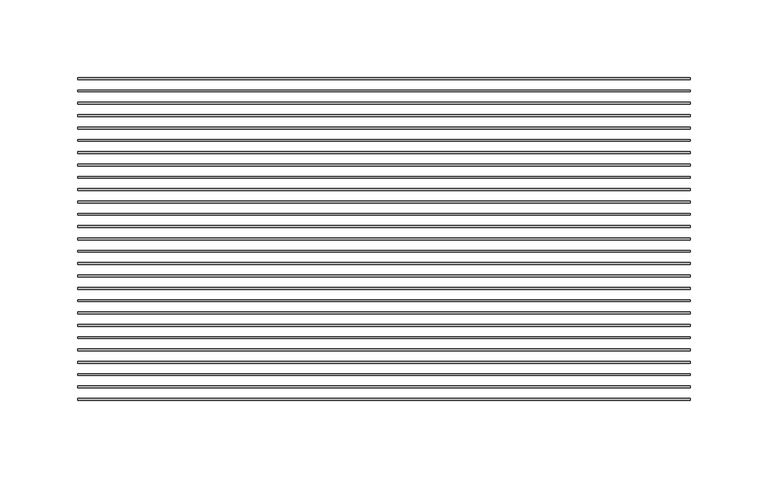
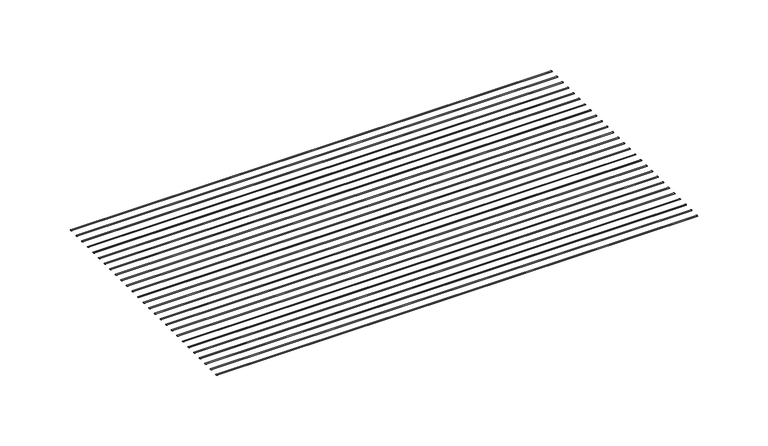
"""IFC4 building model written with IfcOpenShell, lengths in millimetres: proxy geometry, CRAi Generic Model Mesh Piece Face Based : CRAi Generic Model Mesh Piece Face Based."""

from ifc_helpers import new_model, si_unit, point, frame, origin, place, context, project, spatial, ellipse_curve, trimmed, source, transform, mapped, element, save
from ifc_brep_helpers import plane_surface, extruded_surface, advanced_brep


def generic_models_04f31e3c(model_context):
    return source(origin(), model_context, "Body", "AdvancedBrep", [
        advanced_brep(
        [(-196.85, 134.6265202, -2.9765625), (-196.85, 133.4358952, -2.9765625), (196.85, 134.6265202, -2.9765625), (196.85, 133.4358952, -2.9765625)],
        [
            (0, 1, ellipse_curve(frame((-196.85, 134.0312077, -2.9765625), z_axis=(-1.0, 0.0, 0.0), x_axis=(0.0, -1.0, 0.0)), 0.5953125, 0.1984375)),
            (1, 0, ellipse_curve(frame((-196.85, 134.0312077, -2.9765625), z_axis=(-1.0, 0.0, 0.0), x_axis=(0.0, -1.0, 0.0)), 0.5953125, 0.1984375)),
            (2, 3, ellipse_curve(frame((196.85, 134.0312077, -2.9765625), z_axis=(1.0, 0.0, 0.0), x_axis=(0.0, -1.0, 0.0)), 0.5953125, 0.1984375)),
            (3, 2, ellipse_curve(frame((196.85, 134.0312077, -2.9765625), z_axis=(1.0, 0.0, 0.0), x_axis=(0.0, -1.0, 0.0)), 0.5953125, 0.1984375)),
            (0, 2),
            (3, 1),
        ],
        [
            plane_surface(frame((-196.85, 134.0312077, -2.9765625), z_axis=(-1.0, 0.0, 0.0), x_axis=(0.0, 0.0, 1.0))),
            plane_surface(frame((196.85, 134.0312077, -2.9765625), z_axis=(1.0, 0.0, 0.0), x_axis=(0.0, 0.0, 1.0))),
            extruded_surface(trimmed(ellipse_curve(frame((196.85, 134.0312077, -2.9765625), z_axis=(-1.0, 0.0, 0.0), x_axis=(0.0, -1.0, 0.0)), 0.5953125, 0.1984375), [point((196.85, 134.6265202, -2.9765625))], [point((196.85, 133.4358952, -2.9765625))], True, "CARTESIAN"), (-393.7, 0.0, 0.0), 393.7),
            extruded_surface(trimmed(ellipse_curve(frame((196.85, 134.0312077, -2.9765625), z_axis=(-1.0, 0.0, 0.0), x_axis=(0.0, -1.0, 0.0)), 0.5953125, 0.1984375), [point((196.85, 133.4358952, -2.9765625))], [point((196.85, 134.6265202, -2.9765625))], True, "CARTESIAN"), (-393.7, 0.0, 0.0), 393.7),
        ],
        [
            (0, [[1, 2]]),
            (1, [[3, 4]]),
            (2, [[-1, 5, -4, 6]]),
            (3, [[-2, -6, -3, -5]]),
        ],
    ),
        advanced_brep(
        [(-196.85, 126.6890202, -2.9765625), (-196.85, 125.4983952, -2.9765625), (196.85, 126.6890202, -2.9765625), (196.85, 125.4983952, -2.9765625)],
        [
            (0, 1, ellipse_curve(frame((-196.85, 126.0937077, -2.9765625), z_axis=(-1.0, 0.0, 0.0), x_axis=(0.0, -1.0, 0.0)), 0.5953125, 0.1984375)),
            (1, 0, ellipse_curve(frame((-196.85, 126.0937077, -2.9765625), z_axis=(-1.0, 0.0, 0.0), x_axis=(0.0, -1.0, 0.0)), 0.5953125, 0.1984375)),
            (2, 3, ellipse_curve(frame((196.85, 126.0937077, -2.9765625), z_axis=(1.0, 0.0, 0.0), x_axis=(0.0, -1.0, 0.0)), 0.5953125, 0.1984375)),
            (3, 2, ellipse_curve(frame((196.85, 126.0937077, -2.9765625), z_axis=(1.0, 0.0, 0.0), x_axis=(0.0, -1.0, 0.0)), 0.5953125, 0.1984375)),
            (0, 2),
            (3, 1),
        ],
        [
            plane_surface(frame((-196.85, 126.0937077, -2.9765625), z_axis=(-1.0, 0.0, 0.0), x_axis=(0.0, 0.0, 1.0))),
            plane_surface(frame((196.85, 126.0937077, -2.9765625), z_axis=(1.0, 0.0, 0.0), x_axis=(0.0, 0.0, 1.0))),
            extruded_surface(trimmed(ellipse_curve(frame((196.85, 126.0937077, -2.9765625), z_axis=(-1.0, 0.0, 0.0), x_axis=(0.0, -1.0, 0.0)), 0.5953125, 0.1984375), [point((196.85, 126.6890202, -2.9765625))], [point((196.85, 125.4983952, -2.9765625))], True, "CARTESIAN"), (-393.7, 0.0, 0.0), 393.7),
            extruded_surface(trimmed(ellipse_curve(frame((196.85, 126.0937077, -2.9765625), z_axis=(-1.0, 0.0, 0.0), x_axis=(0.0, -1.0, 0.0)), 0.5953125, 0.1984375), [point((196.85, 125.4983952, -2.9765625))], [point((196.85, 126.6890202, -2.9765625))], True, "CARTESIAN"), (-393.7, 0.0, 0.0), 393.7),
        ],
        [
            (0, [[1, 2]]),
            (1, [[3, 4]]),
            (2, [[-1, 5, -4, 6]]),
            (3, [[-2, -6, -3, -5]]),
        ],
    ),
        advanced_brep(
        [(-196.85, 118.7515202, -2.9765625), (-196.85, 117.5608952, -2.9765625), (196.85, 118.7515202, -2.9765625), (196.85, 117.5608952, -2.9765625)],
        [
            (0, 1, ellipse_curve(frame((-196.85, 118.1562077, -2.9765625), z_axis=(-1.0, 0.0, 0.0), x_axis=(0.0, -1.0, 0.0)), 0.5953125, 0.1984375)),
            (1, 0, ellipse_curve(frame((-196.85, 118.1562077, -2.9765625), z_axis=(-1.0, 0.0, 0.0), x_axis=(0.0, -1.0, 0.0)), 0.5953125, 0.1984375)),
            (2, 3, ellipse_curve(frame((196.85, 118.1562077, -2.9765625), z_axis=(1.0, 0.0, 0.0), x_axis=(0.0, -1.0, 0.0)), 0.5953125, 0.1984375)),
            (3, 2, ellipse_curve(frame((196.85, 118.1562077, -2.9765625), z_axis=(1.0, 0.0, 0.0), x_axis=(0.0, -1.0, 0.0)), 0.5953125, 0.1984375)),
            (0, 2),
            (3, 1),
        ],
        [
            plane_surface(frame((-196.85, 118.1562077, -2.9765625), z_axis=(-1.0, 0.0, 0.0), x_axis=(0.0, 0.0, 1.0))),
            plane_surface(frame((196.85, 118.1562077, -2.9765625), z_axis=(1.0, 0.0, 0.0), x_axis=(0.0, 0.0, 1.0))),
            extruded_surface(trimmed(ellipse_curve(frame((196.85, 118.1562077, -2.9765625), z_axis=(-1.0, 0.0, 0.0), x_axis=(0.0, -1.0, 0.0)), 0.5953125, 0.1984375), [point((196.85, 118.7515202, -2.9765625))], [point((196.85, 117.5608952, -2.9765625))], True, "CARTESIAN"), (-393.7, 0.0, 0.0), 393.7),
            extruded_surface(trimmed(ellipse_curve(frame((196.85, 118.1562077, -2.9765625), z_axis=(-1.0, 0.0, 0.0), x_axis=(0.0, -1.0, 0.0)), 0.5953125, 0.1984375), [point((196.85, 117.5608952, -2.9765625))], [point((196.85, 118.7515202, -2.9765625))], True, "CARTESIAN"), (-393.7, 0.0, 0.0), 393.7),
        ],
        [
            (0, [[1, 2]]),
            (1, [[3, 4]]),
            (2, [[-1, 5, -4, 6]]),
            (3, [[-2, -6, -3, -5]]),
        ],
    ),
        advanced_brep(
        [(-196.85, 110.8140202, -2.9765625), (-196.85, 109.6233952, -2.9765625), (196.85, 110.8140202, -2.9765625), (196.85, 109.6233952, -2.9765625)],
        [
            (0, 1, ellipse_curve(frame((-196.85, 110.2187077, -2.9765625), z_axis=(-1.0, 0.0, 0.0), x_axis=(0.0, -1.0, 0.0)), 0.5953125, 0.1984375)),
            (1, 0, ellipse_curve(frame((-196.85, 110.2187077, -2.9765625), z_axis=(-1.0, 0.0, 0.0), x_axis=(0.0, -1.0, 0.0)), 0.5953125, 0.1984375)),
            (2, 3, ellipse_curve(frame((196.85, 110.2187077, -2.9765625), z_axis=(1.0, 0.0, 0.0), x_axis=(0.0, -1.0, 0.0)), 0.5953125, 0.1984375)),
            (3, 2, ellipse_curve(frame((196.85, 110.2187077, -2.9765625), z_axis=(1.0, 0.0, 0.0), x_axis=(0.0, -1.0, 0.0)), 0.5953125, 0.1984375)),
            (0, 2),
            (3, 1),
        ],
        [
            plane_surface(frame((-196.85, 110.2187077, -2.9765625), z_axis=(-1.0, 0.0, 0.0), x_axis=(0.0, 0.0, 1.0))),
            plane_surface(frame((196.85, 110.2187077, -2.9765625), z_axis=(1.0, 0.0, 0.0), x_axis=(0.0, 0.0, 1.0))),
            extruded_surface(trimmed(ellipse_curve(frame((196.85, 110.2187077, -2.9765625), z_axis=(-1.0, 0.0, 0.0), x_axis=(0.0, -1.0, 0.0)), 0.5953125, 0.1984375), [point((196.85, 110.8140202, -2.9765625))], [point((196.85, 109.6233952, -2.9765625))], True, "CARTESIAN"), (-393.7, 0.0, 0.0), 393.7),
            extruded_surface(trimmed(ellipse_curve(frame((196.85, 110.2187077, -2.9765625), z_axis=(-1.0, 0.0, 0.0), x_axis=(0.0, -1.0, 0.0)), 0.5953125, 0.1984375), [point((196.85, 109.6233952, -2.9765625))], [point((196.85, 110.8140202, -2.9765625))], True, "CARTESIAN"), (-393.7, 0.0, 0.0), 393.7),
        ],
        [
            (0, [[1, 2]]),
            (1, [[3, 4]]),
            (2, [[-1, 5, -4, 6]]),
            (3, [[-2, -6, -3, -5]]),
        ],
    ),
        advanced_brep(
        [(-196.85, 102.8765202, -2.9765625), (-196.85, 101.6858952, -2.9765625), (196.85, 102.8765202, -2.9765625), (196.85, 101.6858952, -2.9765625)],
        [
            (0, 1, ellipse_curve(frame((-196.85, 102.2812077, -2.9765625), z_axis=(-1.0, 0.0, 0.0), x_axis=(0.0, -1.0, 0.0)), 0.5953125, 0.1984375)),
            (1, 0, ellipse_curve(frame((-196.85, 102.2812077, -2.9765625), z_axis=(-1.0, 0.0, 0.0), x_axis=(0.0, -1.0, 0.0)), 0.5953125, 0.1984375)),
            (2, 3, ellipse_curve(frame((196.85, 102.2812077, -2.9765625), z_axis=(1.0, 0.0, 0.0), x_axis=(0.0, -1.0, 0.0)), 0.5953125, 0.1984375)),
            (3, 2, ellipse_curve(frame((196.85, 102.2812077, -2.9765625), z_axis=(1.0, 0.0, 0.0), x_axis=(0.0, -1.0, 0.0)), 0.5953125, 0.1984375)),
            (0, 2),
            (3, 1),
        ],
        [
            plane_surface(frame((-196.85, 102.2812077, -2.9765625), z_axis=(-1.0, 0.0, 0.0), x_axis=(0.0, 0.0, 1.0))),
            plane_surface(frame((196.85, 102.2812077, -2.9765625), z_axis=(1.0, 0.0, 0.0), x_axis=(0.0, 0.0, 1.0))),
            extruded_surface(trimmed(ellipse_curve(frame((196.85, 102.2812077, -2.9765625), z_axis=(-1.0, 0.0, 0.0), x_axis=(0.0, -1.0, 0.0)), 0.5953125, 0.1984375), [point((196.85, 102.8765202, -2.9765625))], [point((196.85, 101.6858952, -2.9765625))], True, "CARTESIAN"), (-393.7, 0.0, 0.0), 393.7),
            extruded_surface(trimmed(ellipse_curve(frame((196.85, 102.2812077, -2.9765625), z_axis=(-1.0, 0.0, 0.0), x_axis=(0.0, -1.0, 0.0)), 0.5953125, 0.1984375), [point((196.85, 101.6858952, -2.9765625))], [point((196.85, 102.8765202, -2.9765625))], True, "CARTESIAN"), (-393.7, 0.0, 0.0), 393.7),
        ],
        [
            (0, [[1, 2]]),
            (1, [[3, 4]]),
            (2, [[-1, 5, -4, 6]]),
            (3, [[-2, -6, -3, -5]]),
        ],
    ),
        advanced_brep(
        [(-196.85, 94.9390202, -2.9765625), (-196.85, 93.7483952, -2.9765625), (196.85, 94.9390202, -2.9765625), (196.85, 93.7483952, -2.9765625)],
        [
            (0, 1, ellipse_curve(frame((-196.85, 94.3437077, -2.9765625), z_axis=(-1.0, 0.0, 0.0), x_axis=(0.0, -1.0, 0.0)), 0.5953125, 0.1984375)),
            (1, 0, ellipse_curve(frame((-196.85, 94.3437077, -2.9765625), z_axis=(-1.0, 0.0, 0.0), x_axis=(0.0, -1.0, 0.0)), 0.5953125, 0.1984375)),
            (2, 3, ellipse_curve(frame((196.85, 94.3437077, -2.9765625), z_axis=(1.0, 0.0, 0.0), x_axis=(0.0, -1.0, 0.0)), 0.5953125, 0.1984375)),
            (3, 2, ellipse_curve(frame((196.85, 94.3437077, -2.9765625), z_axis=(1.0, 0.0, 0.0), x_axis=(0.0, -1.0, 0.0)), 0.5953125, 0.1984375)),
            (0, 2),
            (3, 1),
        ],
        [
            plane_surface(frame((-196.85, 94.3437077, -2.9765625), z_axis=(-1.0, 0.0, 0.0), x_axis=(0.0, 0.0, 1.0))),
            plane_surface(frame((196.85, 94.3437077, -2.9765625), z_axis=(1.0, 0.0, 0.0), x_axis=(0.0, 0.0, 1.0))),
            extruded_surface(trimmed(ellipse_curve(frame((196.85, 94.3437077, -2.9765625), z_axis=(-1.0, 0.0, 0.0), x_axis=(0.0, -1.0, 0.0)), 0.5953125, 0.1984375), [point((196.85, 94.9390202, -2.9765625))], [point((196.85, 93.7483952, -2.9765625))], True, "CARTESIAN"), (-393.7, 0.0, 0.0), 393.7),
            extruded_surface(trimmed(ellipse_curve(frame((196.85, 94.3437077, -2.9765625), z_axis=(-1.0, 0.0, 0.0), x_axis=(0.0, -1.0, 0.0)), 0.5953125, 0.1984375), [point((196.85, 93.7483952, -2.9765625))], [point((196.85, 94.9390202, -2.9765625))], True, "CARTESIAN"), (-393.7, 0.0, 0.0), 393.7),
        ],
        [
            (0, [[1, 2]]),
            (1, [[3, 4]]),
            (2, [[-1, 5, -4, 6]]),
            (3, [[-2, -6, -3, -5]]),
        ],
    ),
        advanced_brep(
        [(-196.85, 87.0015202, -2.9765625), (-196.85, 85.8108952, -2.9765625), (196.85, 87.0015202, -2.9765625), (196.85, 85.8108952, -2.9765625)],
        [
            (0, 1, ellipse_curve(frame((-196.85, 86.4062077, -2.9765625), z_axis=(-1.0, 0.0, 0.0), x_axis=(0.0, -1.0, 0.0)), 0.5953125, 0.1984375)),
            (1, 0, ellipse_curve(frame((-196.85, 86.4062077, -2.9765625), z_axis=(-1.0, 0.0, 0.0), x_axis=(0.0, -1.0, 0.0)), 0.5953125, 0.1984375)),
            (2, 3, ellipse_curve(frame((196.85, 86.4062077, -2.9765625), z_axis=(1.0, 0.0, 0.0), x_axis=(0.0, -1.0, 0.0)), 0.5953125, 0.1984375)),
            (3, 2, ellipse_curve(frame((196.85, 86.4062077, -2.9765625), z_axis=(1.0, 0.0, 0.0), x_axis=(0.0, -1.0, 0.0)), 0.5953125, 0.1984375)),
            (0, 2),
            (3, 1),
        ],
        [
            plane_surface(frame((-196.85, 86.4062077, -2.9765625), z_axis=(-1.0, 0.0, 0.0), x_axis=(0.0, 0.0, 1.0))),
            plane_surface(frame((196.85, 86.4062077, -2.9765625), z_axis=(1.0, 0.0, 0.0), x_axis=(0.0, 0.0, 1.0))),
            extruded_surface(trimmed(ellipse_curve(frame((196.85, 86.4062077, -2.9765625), z_axis=(-1.0, 0.0, 0.0), x_axis=(0.0, -1.0, 0.0)), 0.5953125, 0.1984375), [point((196.85, 87.0015202, -2.9765625))], [point((196.85, 85.8108952, -2.9765625))], True, "CARTESIAN"), (-393.7, 0.0, 0.0), 393.7),
            extruded_surface(trimmed(ellipse_curve(frame((196.85, 86.4062077, -2.9765625), z_axis=(-1.0, 0.0, 0.0), x_axis=(0.0, -1.0, 0.0)), 0.5953125, 0.1984375), [point((196.85, 85.8108952, -2.9765625))], [point((196.85, 87.0015202, -2.9765625))], True, "CARTESIAN"), (-393.7, 0.0, 0.0), 393.7),
        ],
        [
            (0, [[1, 2]]),
            (1, [[3, 4]]),
            (2, [[-1, 5, -4, 6]]),
            (3, [[-2, -6, -3, -5]]),
        ],
    ),
        advanced_brep(
        [(-196.85, 79.0640202, -2.9765625), (-196.85, 77.8733952, -2.9765625), (196.85, 79.0640202, -2.9765625), (196.85, 77.8733952, -2.9765625)],
        [
            (0, 1, ellipse_curve(frame((-196.85, 78.4687077, -2.9765625), z_axis=(-1.0, 0.0, 0.0), x_axis=(0.0, -1.0, 0.0)), 0.5953125, 0.1984375)),
            (1, 0, ellipse_curve(frame((-196.85, 78.4687077, -2.9765625), z_axis=(-1.0, 0.0, 0.0), x_axis=(0.0, -1.0, 0.0)), 0.5953125, 0.1984375)),
            (2, 3, ellipse_curve(frame((196.85, 78.4687077, -2.9765625), z_axis=(1.0, 0.0, 0.0), x_axis=(0.0, -1.0, 0.0)), 0.5953125, 0.1984375)),
            (3, 2, ellipse_curve(frame((196.85, 78.4687077, -2.9765625), z_axis=(1.0, 0.0, 0.0), x_axis=(0.0, -1.0, 0.0)), 0.5953125, 0.1984375)),
            (0, 2),
            (3, 1),
        ],
        [
            plane_surface(frame((-196.85, 78.4687077, -2.9765625), z_axis=(-1.0, 0.0, 0.0), x_axis=(0.0, 0.0, 1.0))),
            plane_surface(frame((196.85, 78.4687077, -2.9765625), z_axis=(1.0, 0.0, 0.0), x_axis=(0.0, 0.0, 1.0))),
            extruded_surface(trimmed(ellipse_curve(frame((196.85, 78.4687077, -2.9765625), z_axis=(-1.0, 0.0, 0.0), x_axis=(0.0, -1.0, 0.0)), 0.5953125, 0.1984375), [point((196.85, 79.0640202, -2.9765625))], [point((196.85, 77.8733952, -2.9765625))], True, "CARTESIAN"), (-393.7, 0.0, 0.0), 393.7),
            extruded_surface(trimmed(ellipse_curve(frame((196.85, 78.4687077, -2.9765625), z_axis=(-1.0, 0.0, 0.0), x_axis=(0.0, -1.0, 0.0)), 0.5953125, 0.1984375), [point((196.85, 77.8733952, -2.9765625))], [point((196.85, 79.0640202, -2.9765625))], True, "CARTESIAN"), (-393.7, 0.0, 0.0), 393.7),
        ],
        [
            (0, [[1, 2]]),
            (1, [[3, 4]]),
            (2, [[-1, 5, -4, 6]]),
            (3, [[-2, -6, -3, -5]]),
        ],
    ),
        advanced_brep(
        [(-196.85, 71.1265202, -2.9765625), (-196.85, 69.9358952, -2.9765625), (196.85, 71.1265202, -2.9765625), (196.85, 69.9358952, -2.9765625)],
        [
            (0, 1, ellipse_curve(frame((-196.85, 70.5312077, -2.9765625), z_axis=(-1.0, 0.0, 0.0), x_axis=(0.0, -1.0, 0.0)), 0.5953125, 0.1984375)),
            (1, 0, ellipse_curve(frame((-196.85, 70.5312077, -2.9765625), z_axis=(-1.0, 0.0, 0.0), x_axis=(0.0, -1.0, 0.0)), 0.5953125, 0.1984375)),
            (2, 3, ellipse_curve(frame((196.85, 70.5312077, -2.9765625), z_axis=(1.0, 0.0, 0.0), x_axis=(0.0, -1.0, 0.0)), 0.5953125, 0.1984375)),
            (3, 2, ellipse_curve(frame((196.85, 70.5312077, -2.9765625), z_axis=(1.0, 0.0, 0.0), x_axis=(0.0, -1.0, 0.0)), 0.5953125, 0.1984375)),
            (0, 2),
            (3, 1),
        ],
        [
            plane_surface(frame((-196.85, 70.5312077, -2.9765625), z_axis=(-1.0, 0.0, 0.0), x_axis=(0.0, 0.0, 1.0))),
            plane_surface(frame((196.85, 70.5312077, -2.9765625), z_axis=(1.0, 0.0, 0.0), x_axis=(0.0, 0.0, 1.0))),
            extruded_surface(trimmed(ellipse_curve(frame((196.85, 70.5312077, -2.9765625), z_axis=(-1.0, 0.0, 0.0), x_axis=(0.0, -1.0, 0.0)), 0.5953125, 0.1984375), [point((196.85, 71.1265202, -2.9765625))], [point((196.85, 69.9358952, -2.9765625))], True, "CARTESIAN"), (-393.7, 0.0, 0.0), 393.7),
            extruded_surface(trimmed(ellipse_curve(frame((196.85, 70.5312077, -2.9765625), z_axis=(-1.0, 0.0, 0.0), x_axis=(0.0, -1.0, 0.0)), 0.5953125, 0.1984375), [point((196.85, 69.9358952, -2.9765625))], [point((196.85, 71.1265202, -2.9765625))], True, "CARTESIAN"), (-393.7, 0.0, 0.0), 393.7),
        ],
        [
            (0, [[1, 2]]),
            (1, [[3, 4]]),
            (2, [[-1, 5, -4, 6]]),
            (3, [[-2, -6, -3, -5]]),
        ],
    ),
        advanced_brep(
        [(-196.85, 63.1890202, -2.9765625), (-196.85, 61.9983952, -2.9765625), (196.85, 63.1890202, -2.9765625), (196.85, 61.9983952, -2.9765625)],
        [
            (0, 1, ellipse_curve(frame((-196.85, 62.5937077, -2.9765625), z_axis=(-1.0, 0.0, 0.0), x_axis=(0.0, -1.0, 0.0)), 0.5953125, 0.1984375)),
            (1, 0, ellipse_curve(frame((-196.85, 62.5937077, -2.9765625), z_axis=(-1.0, 0.0, 0.0), x_axis=(0.0, -1.0, 0.0)), 0.5953125, 0.1984375)),
            (2, 3, ellipse_curve(frame((196.85, 62.5937077, -2.9765625), z_axis=(1.0, 0.0, 0.0), x_axis=(0.0, -1.0, 0.0)), 0.5953125, 0.1984375)),
            (3, 2, ellipse_curve(frame((196.85, 62.5937077, -2.9765625), z_axis=(1.0, 0.0, 0.0), x_axis=(0.0, -1.0, 0.0)), 0.5953125, 0.1984375)),
            (0, 2),
            (3, 1),
        ],
        [
            plane_surface(frame((-196.85, 62.5937077, -2.9765625), z_axis=(-1.0, 0.0, 0.0), x_axis=(0.0, 0.0, 1.0))),
            plane_surface(frame((196.85, 62.5937077, -2.9765625), z_axis=(1.0, 0.0, 0.0), x_axis=(0.0, 0.0, 1.0))),
            extruded_surface(trimmed(ellipse_curve(frame((196.85, 62.5937077, -2.9765625), z_axis=(-1.0, 0.0, 0.0), x_axis=(0.0, -1.0, 0.0)), 0.5953125, 0.1984375), [point((196.85, 63.1890202, -2.9765625))], [point((196.85, 61.9983952, -2.9765625))], True, "CARTESIAN"), (-393.7, 0.0, 0.0), 393.7),
            extruded_surface(trimmed(ellipse_curve(frame((196.85, 62.5937077, -2.9765625), z_axis=(-1.0, 0.0, 0.0), x_axis=(0.0, -1.0, 0.0)), 0.5953125, 0.1984375), [point((196.85, 61.9983952, -2.9765625))], [point((196.85, 63.1890202, -2.9765625))], True, "CARTESIAN"), (-393.7, 0.0, 0.0), 393.7),
        ],
        [
            (0, [[1, 2]]),
            (1, [[3, 4]]),
            (2, [[-1, 5, -4, 6]]),
            (3, [[-2, -6, -3, -5]]),
        ],
    ),
        advanced_brep(
        [(-196.85, 55.2515202, -2.9765625), (-196.85, 54.0608952, -2.9765625), (196.85, 55.2515202, -2.9765625), (196.85, 54.0608952, -2.9765625)],
        [
            (0, 1, ellipse_curve(frame((-196.85, 54.6562077, -2.9765625), z_axis=(-1.0, 0.0, 0.0), x_axis=(0.0, -1.0, 0.0)), 0.5953125, 0.1984375)),
            (1, 0, ellipse_curve(frame((-196.85, 54.6562077, -2.9765625), z_axis=(-1.0, 0.0, 0.0), x_axis=(0.0, -1.0, 0.0)), 0.5953125, 0.1984375)),
            (2, 3, ellipse_curve(frame((196.85, 54.6562077, -2.9765625), z_axis=(1.0, 0.0, 0.0), x_axis=(0.0, -1.0, 0.0)), 0.5953125, 0.1984375)),
            (3, 2, ellipse_curve(frame((196.85, 54.6562077, -2.9765625), z_axis=(1.0, 0.0, 0.0), x_axis=(0.0, -1.0, 0.0)), 0.5953125, 0.1984375)),
            (0, 2),
            (3, 1),
        ],
        [
            plane_surface(frame((-196.85, 54.6562077, -2.9765625), z_axis=(-1.0, 0.0, 0.0), x_axis=(0.0, 0.0, 1.0))),
            plane_surface(frame((196.85, 54.6562077, -2.9765625), z_axis=(1.0, 0.0, 0.0), x_axis=(0.0, 0.0, 1.0))),
            extruded_surface(trimmed(ellipse_curve(frame((196.85, 54.6562077, -2.9765625), z_axis=(-1.0, 0.0, 0.0), x_axis=(0.0, -1.0, 0.0)), 0.5953125, 0.1984375), [point((196.85, 55.2515202, -2.9765625))], [point((196.85, 54.0608952, -2.9765625))], True, "CARTESIAN"), (-393.7, 0.0, 0.0), 393.7),
            extruded_surface(trimmed(ellipse_curve(frame((196.85, 54.6562077, -2.9765625), z_axis=(-1.0, 0.0, 0.0), x_axis=(0.0, -1.0, 0.0)), 0.5953125, 0.1984375), [point((196.85, 54.0608952, -2.9765625))], [point((196.85, 55.2515202, -2.9765625))], True, "CARTESIAN"), (-393.7, 0.0, 0.0), 393.7),
        ],
        [
            (0, [[1, 2]]),
            (1, [[3, 4]]),
            (2, [[-1, 5, -4, 6]]),
            (3, [[-2, -6, -3, -5]]),
        ],
    ),
        advanced_brep(
        [(-196.85, 47.3140202, -2.9765625), (-196.85, 46.1233952, -2.9765625), (196.85, 47.3140202, -2.9765625), (196.85, 46.1233952, -2.9765625)],
        [
            (0, 1, ellipse_curve(frame((-196.85, 46.7187077, -2.9765625), z_axis=(-1.0, 0.0, 0.0), x_axis=(0.0, -1.0, 0.0)), 0.5953125, 0.1984375)),
            (1, 0, ellipse_curve(frame((-196.85, 46.7187077, -2.9765625), z_axis=(-1.0, 0.0, 0.0), x_axis=(0.0, -1.0, 0.0)), 0.5953125, 0.1984375)),
            (2, 3, ellipse_curve(frame((196.85, 46.7187077, -2.9765625), z_axis=(1.0, 0.0, 0.0), x_axis=(0.0, -1.0, 0.0)), 0.5953125, 0.1984375)),
            (3, 2, ellipse_curve(frame((196.85, 46.7187077, -2.9765625), z_axis=(1.0, 0.0, 0.0), x_axis=(0.0, -1.0, 0.0)), 0.5953125, 0.1984375)),
            (0, 2),
            (3, 1),
        ],
        [
            plane_surface(frame((-196.85, 46.7187077, -2.9765625), z_axis=(-1.0, 0.0, 0.0), x_axis=(0.0, 0.0, 1.0))),
            plane_surface(frame((196.85, 46.7187077, -2.9765625), z_axis=(1.0, 0.0, 0.0), x_axis=(0.0, 0.0, 1.0))),
            extruded_surface(trimmed(ellipse_curve(frame((196.85, 46.7187077, -2.9765625), z_axis=(-1.0, 0.0, 0.0), x_axis=(0.0, -1.0, 0.0)), 0.5953125, 0.1984375), [point((196.85, 47.3140202, -2.9765625))], [point((196.85, 46.1233952, -2.9765625))], True, "CARTESIAN"), (-393.7, 0.0, 0.0), 393.7),
            extruded_surface(trimmed(ellipse_curve(frame((196.85, 46.7187077, -2.9765625), z_axis=(-1.0, 0.0, 0.0), x_axis=(0.0, -1.0, 0.0)), 0.5953125, 0.1984375), [point((196.85, 46.1233952, -2.9765625))], [point((196.85, 47.3140202, -2.9765625))], True, "CARTESIAN"), (-393.7, 0.0, 0.0), 393.7),
        ],
        [
            (0, [[1, 2]]),
            (1, [[3, 4]]),
            (2, [[-1, 5, -4, 6]]),
            (3, [[-2, -6, -3, -5]]),
        ],
    ),
        advanced_brep(
        [(-196.85, 39.3765202, -2.9765625), (-196.85, 38.1858952, -2.9765625), (196.85, 39.3765202, -2.9765625), (196.85, 38.1858952, -2.9765625)],
        [
            (0, 1, ellipse_curve(frame((-196.85, 38.7812077, -2.9765625), z_axis=(-1.0, 0.0, 0.0), x_axis=(0.0, -1.0, 0.0)), 0.5953125, 0.1984375)),
            (1, 0, ellipse_curve(frame((-196.85, 38.7812077, -2.9765625), z_axis=(-1.0, 0.0, 0.0), x_axis=(0.0, -1.0, 0.0)), 0.5953125, 0.1984375)),
            (2, 3, ellipse_curve(frame((196.85, 38.7812077, -2.9765625), z_axis=(1.0, 0.0, 0.0), x_axis=(0.0, -1.0, 0.0)), 0.5953125, 0.1984375)),
            (3, 2, ellipse_curve(frame((196.85, 38.7812077, -2.9765625), z_axis=(1.0, 0.0, 0.0), x_axis=(0.0, -1.0, 0.0)), 0.5953125, 0.1984375)),
            (0, 2),
            (3, 1),
        ],
        [
            plane_surface(frame((-196.85, 38.7812077, -2.9765625), z_axis=(-1.0, 0.0, 0.0), x_axis=(0.0, 0.0, 1.0))),
            plane_surface(frame((196.85, 38.7812077, -2.9765625), z_axis=(1.0, 0.0, 0.0), x_axis=(0.0, 0.0, 1.0))),
            extruded_surface(trimmed(ellipse_curve(frame((196.85, 38.7812077, -2.9765625), z_axis=(-1.0, 0.0, 0.0), x_axis=(0.0, -1.0, 0.0)), 0.5953125, 0.1984375), [point((196.85, 39.3765202, -2.9765625))], [point((196.85, 38.1858952, -2.9765625))], True, "CARTESIAN"), (-393.7, 0.0, 0.0), 393.7),
            extruded_surface(trimmed(ellipse_curve(frame((196.85, 38.7812077, -2.9765625), z_axis=(-1.0, 0.0, 0.0), x_axis=(0.0, -1.0, 0.0)), 0.5953125, 0.1984375), [point((196.85, 38.1858952, -2.9765625))], [point((196.85, 39.3765202, -2.9765625))], True, "CARTESIAN"), (-393.7, 0.0, 0.0), 393.7),
        ],
        [
            (0, [[1, 2]]),
            (1, [[3, 4]]),
            (2, [[-1, 5, -4, 6]]),
            (3, [[-2, -6, -3, -5]]),
        ],
    ),
        advanced_brep(
        [(-196.85, 31.4390202, -2.9765625), (-196.85, 30.2483952, -2.9765625), (196.85, 31.4390202, -2.9765625), (196.85, 30.2483952, -2.9765625)],
        [
            (0, 1, ellipse_curve(frame((-196.85, 30.8437077, -2.9765625), z_axis=(-1.0, 0.0, 0.0), x_axis=(0.0, -1.0, 0.0)), 0.5953125, 0.1984375)),
            (1, 0, ellipse_curve(frame((-196.85, 30.8437077, -2.9765625), z_axis=(-1.0, 0.0, 0.0), x_axis=(0.0, -1.0, 0.0)), 0.5953125, 0.1984375)),
            (2, 3, ellipse_curve(frame((196.85, 30.8437077, -2.9765625), z_axis=(1.0, 0.0, 0.0), x_axis=(0.0, -1.0, 0.0)), 0.5953125, 0.1984375)),
            (3, 2, ellipse_curve(frame((196.85, 30.8437077, -2.9765625), z_axis=(1.0, 0.0, 0.0), x_axis=(0.0, -1.0, 0.0)), 0.5953125, 0.1984375)),
            (0, 2),
            (3, 1),
        ],
        [
            plane_surface(frame((-196.85, 30.8437077, -2.9765625), z_axis=(-1.0, 0.0, 0.0), x_axis=(0.0, 0.0, 1.0))),
            plane_surface(frame((196.85, 30.8437077, -2.9765625), z_axis=(1.0, 0.0, 0.0), x_axis=(0.0, 0.0, 1.0))),
            extruded_surface(trimmed(ellipse_curve(frame((196.85, 30.8437077, -2.9765625), z_axis=(-1.0, 0.0, 0.0), x_axis=(0.0, -1.0, 0.0)), 0.5953125, 0.1984375), [point((196.85, 31.4390202, -2.9765625))], [point((196.85, 30.2483952, -2.9765625))], True, "CARTESIAN"), (-393.7, 0.0, 0.0), 393.7),
            extruded_surface(trimmed(ellipse_curve(frame((196.85, 30.8437077, -2.9765625), z_axis=(-1.0, 0.0, 0.0), x_axis=(0.0, -1.0, 0.0)), 0.5953125, 0.1984375), [point((196.85, 30.2483952, -2.9765625))], [point((196.85, 31.4390202, -2.9765625))], True, "CARTESIAN"), (-393.7, 0.0, 0.0), 393.7),
        ],
        [
            (0, [[1, 2]]),
            (1, [[3, 4]]),
            (2, [[-1, 5, -4, 6]]),
            (3, [[-2, -6, -3, -5]]),
        ],
    ),
        advanced_brep(
        [(-196.85, 23.5015202, -2.9765625), (-196.85, 22.3108952, -2.9765625), (196.85, 23.5015202, -2.9765625), (196.85, 22.3108952, -2.9765625)],
        [
            (0, 1, ellipse_curve(frame((-196.85, 22.9062077, -2.9765625), z_axis=(-1.0, 0.0, 0.0), x_axis=(0.0, -1.0, 0.0)), 0.5953125, 0.1984375)),
            (1, 0, ellipse_curve(frame((-196.85, 22.9062077, -2.9765625), z_axis=(-1.0, 0.0, 0.0), x_axis=(0.0, -1.0, 0.0)), 0.5953125, 0.1984375)),
            (2, 3, ellipse_curve(frame((196.85, 22.9062077, -2.9765625), z_axis=(1.0, 0.0, 0.0), x_axis=(0.0, -1.0, 0.0)), 0.5953125, 0.1984375)),
            (3, 2, ellipse_curve(frame((196.85, 22.9062077, -2.9765625), z_axis=(1.0, 0.0, 0.0), x_axis=(0.0, -1.0, 0.0)), 0.5953125, 0.1984375)),
            (0, 2),
            (3, 1),
        ],
        [
            plane_surface(frame((-196.85, 22.9062077, -2.9765625), z_axis=(-1.0, 0.0, 0.0), x_axis=(0.0, 0.0, 1.0))),
            plane_surface(frame((196.85, 22.9062077, -2.9765625), z_axis=(1.0, 0.0, 0.0), x_axis=(0.0, 0.0, 1.0))),
            extruded_surface(trimmed(ellipse_curve(frame((196.85, 22.9062077, -2.9765625), z_axis=(-1.0, 0.0, 0.0), x_axis=(0.0, -1.0, 0.0)), 0.5953125, 0.1984375), [point((196.85, 23.5015202, -2.9765625))], [point((196.85, 22.3108952, -2.9765625))], True, "CARTESIAN"), (-393.7, 0.0, 0.0), 393.7),
            extruded_surface(trimmed(ellipse_curve(frame((196.85, 22.9062077, -2.9765625), z_axis=(-1.0, 0.0, 0.0), x_axis=(0.0, -1.0, 0.0)), 0.5953125, 0.1984375), [point((196.85, 22.3108952, -2.9765625))], [point((196.85, 23.5015202, -2.9765625))], True, "CARTESIAN"), (-393.7, 0.0, 0.0), 393.7),
        ],
        [
            (0, [[1, 2]]),
            (1, [[3, 4]]),
            (2, [[-1, 5, -4, 6]]),
            (3, [[-2, -6, -3, -5]]),
        ],
    ),
        advanced_brep(
        [(-196.85, 15.5640202, -2.9765625), (-196.85, 14.3733952, -2.9765625), (196.85, 15.5640202, -2.9765625), (196.85, 14.3733952, -2.9765625)],
        [
            (0, 1, ellipse_curve(frame((-196.85, 14.9687077, -2.9765625), z_axis=(-1.0, 0.0, 0.0), x_axis=(0.0, -1.0, 0.0)), 0.5953125, 0.1984375)),
            (1, 0, ellipse_curve(frame((-196.85, 14.9687077, -2.9765625), z_axis=(-1.0, 0.0, 0.0), x_axis=(0.0, -1.0, 0.0)), 0.5953125, 0.1984375)),
            (2, 3, ellipse_curve(frame((196.85, 14.9687077, -2.9765625), z_axis=(1.0, 0.0, 0.0), x_axis=(0.0, -1.0, 0.0)), 0.5953125, 0.1984375)),
            (3, 2, ellipse_curve(frame((196.85, 14.9687077, -2.9765625), z_axis=(1.0, 0.0, 0.0), x_axis=(0.0, -1.0, 0.0)), 0.5953125, 0.1984375)),
            (0, 2),
            (3, 1),
        ],
        [
            plane_surface(frame((-196.85, 14.9687077, -2.9765625), z_axis=(-1.0, 0.0, 0.0), x_axis=(0.0, 0.0, 1.0))),
            plane_surface(frame((196.85, 14.9687077, -2.9765625), z_axis=(1.0, 0.0, 0.0), x_axis=(0.0, 0.0, 1.0))),
            extruded_surface(trimmed(ellipse_curve(frame((196.85, 14.9687077, -2.9765625), z_axis=(-1.0, 0.0, 0.0), x_axis=(0.0, -1.0, 0.0)), 0.5953125, 0.1984375), [point((196.85, 15.5640202, -2.9765625))], [point((196.85, 14.3733952, -2.9765625))], True, "CARTESIAN"), (-393.7, 0.0, 0.0), 393.7),
            extruded_surface(trimmed(ellipse_curve(frame((196.85, 14.9687077, -2.9765625), z_axis=(-1.0, 0.0, 0.0), x_axis=(0.0, -1.0, 0.0)), 0.5953125, 0.1984375), [point((196.85, 14.3733952, -2.9765625))], [point((196.85, 15.5640202, -2.9765625))], True, "CARTESIAN"), (-393.7, 0.0, 0.0), 393.7),
        ],
        [
            (0, [[1, 2]]),
            (1, [[3, 4]]),
            (2, [[-1, 5, -4, 6]]),
            (3, [[-2, -6, -3, -5]]),
        ],
    ),
        advanced_brep(
        [(-196.85, 7.6265202, -2.9765625), (-196.85, 6.4358952, -2.9765625), (196.85, 7.6265202, -2.9765625), (196.85, 6.4358952, -2.9765625)],
        [
            (0, 1, ellipse_curve(frame((-196.85, 7.0312077, -2.9765625), z_axis=(-1.0, 0.0, 0.0), x_axis=(0.0, -1.0, 0.0)), 0.5953125, 0.1984375)),
            (1, 0, ellipse_curve(frame((-196.85, 7.0312077, -2.9765625), z_axis=(-1.0, 0.0, 0.0), x_axis=(0.0, -1.0, 0.0)), 0.5953125, 0.1984375)),
            (2, 3, ellipse_curve(frame((196.85, 7.0312077, -2.9765625), z_axis=(1.0, 0.0, 0.0), x_axis=(0.0, -1.0, 0.0)), 0.5953125, 0.1984375)),
            (3, 2, ellipse_curve(frame((196.85, 7.0312077, -2.9765625), z_axis=(1.0, 0.0, 0.0), x_axis=(0.0, -1.0, 0.0)), 0.5953125, 0.1984375)),
            (0, 2),
            (3, 1),
        ],
        [
            plane_surface(frame((-196.85, 7.0312077, -2.9765625), z_axis=(-1.0, 0.0, 0.0), x_axis=(0.0, 0.0, 1.0))),
            plane_surface(frame((196.85, 7.0312077, -2.9765625), z_axis=(1.0, 0.0, 0.0), x_axis=(0.0, 0.0, 1.0))),
            extruded_surface(trimmed(ellipse_curve(frame((196.85, 7.0312077, -2.9765625), z_axis=(-1.0, 0.0, 0.0), x_axis=(0.0, -1.0, 0.0)), 0.5953125, 0.1984375), [point((196.85, 7.6265202, -2.9765625))], [point((196.85, 6.4358952, -2.9765625))], True, "CARTESIAN"), (-393.7, 0.0, 0.0), 393.7),
            extruded_surface(trimmed(ellipse_curve(frame((196.85, 7.0312077, -2.9765625), z_axis=(-1.0, 0.0, 0.0), x_axis=(0.0, -1.0, 0.0)), 0.5953125, 0.1984375), [point((196.85, 6.4358952, -2.9765625))], [point((196.85, 7.6265202, -2.9765625))], True, "CARTESIAN"), (-393.7, 0.0, 0.0), 393.7),
        ],
        [
            (0, [[1, 2]]),
            (1, [[3, 4]]),
            (2, [[-1, 5, -4, 6]]),
            (3, [[-2, -6, -3, -5]]),
        ],
    ),
        advanced_brep(
        [(-196.85, -0.3109798, -2.9765625), (-196.85, -1.5016048, -2.9765625), (196.85, -0.3109798, -2.9765625), (196.85, -1.5016048, -2.9765625)],
        [
            (0, 1, ellipse_curve(frame((-196.85, -0.9062923, -2.9765625), z_axis=(-1.0, 0.0, 0.0), x_axis=(0.0, -1.0, 0.0)), 0.5953125, 0.1984375)),
            (1, 0, ellipse_curve(frame((-196.85, -0.9062923, -2.9765625), z_axis=(-1.0, 0.0, 0.0), x_axis=(0.0, -1.0, 0.0)), 0.5953125, 0.1984375)),
            (2, 3, ellipse_curve(frame((196.85, -0.9062923, -2.9765625), z_axis=(1.0, 0.0, 0.0), x_axis=(0.0, -1.0, 0.0)), 0.5953125, 0.1984375)),
            (3, 2, ellipse_curve(frame((196.85, -0.9062923, -2.9765625), z_axis=(1.0, 0.0, 0.0), x_axis=(0.0, -1.0, 0.0)), 0.5953125, 0.1984375)),
            (0, 2),
            (3, 1),
        ],
        [
            plane_surface(frame((-196.85, -0.9062923, -2.9765625), z_axis=(-1.0, 0.0, 0.0), x_axis=(0.0, 0.0, 1.0))),
            plane_surface(frame((196.85, -0.9062923, -2.9765625), z_axis=(1.0, 0.0, 0.0), x_axis=(0.0, 0.0, 1.0))),
            extruded_surface(trimmed(ellipse_curve(frame((196.85, -0.9062923, -2.9765625), z_axis=(-1.0, 0.0, 0.0), x_axis=(0.0, -1.0, 0.0)), 0.5953125, 0.1984375), [point((196.85, -0.3109798, -2.9765625))], [point((196.85, -1.5016048, -2.9765625))], True, "CARTESIAN"), (-393.7, 0.0, 0.0), 393.7),
            extruded_surface(trimmed(ellipse_curve(frame((196.85, -0.9062923, -2.9765625), z_axis=(-1.0, 0.0, 0.0), x_axis=(0.0, -1.0, 0.0)), 0.5953125, 0.1984375), [point((196.85, -1.5016048, -2.9765625))], [point((196.85, -0.3109798, -2.9765625))], True, "CARTESIAN"), (-393.7, 0.0, 0.0), 393.7),
        ],
        [
            (0, [[1, 2]]),
            (1, [[3, 4]]),
            (2, [[-1, 5, -4, 6]]),
            (3, [[-2, -6, -3, -5]]),
        ],
    ),
        advanced_brep(
        [(-196.85, -8.2484798, -2.9765625), (-196.85, -9.4391048, -2.9765625), (196.85, -8.2484798, -2.9765625), (196.85, -9.4391048, -2.9765625)],
        [
            (0, 1, ellipse_curve(frame((-196.85, -8.8437923, -2.9765625), z_axis=(-1.0, 0.0, 0.0), x_axis=(0.0, -1.0, 0.0)), 0.5953125, 0.1984375)),
            (1, 0, ellipse_curve(frame((-196.85, -8.8437923, -2.9765625), z_axis=(-1.0, 0.0, 0.0), x_axis=(0.0, -1.0, 0.0)), 0.5953125, 0.1984375)),
            (2, 3, ellipse_curve(frame((196.85, -8.8437923, -2.9765625), z_axis=(1.0, 0.0, 0.0), x_axis=(0.0, -1.0, 0.0)), 0.5953125, 0.1984375)),
            (3, 2, ellipse_curve(frame((196.85, -8.8437923, -2.9765625), z_axis=(1.0, 0.0, 0.0), x_axis=(0.0, -1.0, 0.0)), 0.5953125, 0.1984375)),
            (0, 2),
            (3, 1),
        ],
        [
            plane_surface(frame((-196.85, -8.8437923, -2.9765625), z_axis=(-1.0, 0.0, 0.0), x_axis=(0.0, 0.0, 1.0))),
            plane_surface(frame((196.85, -8.8437923, -2.9765625), z_axis=(1.0, 0.0, 0.0), x_axis=(0.0, 0.0, 1.0))),
            extruded_surface(trimmed(ellipse_curve(frame((196.85, -8.8437923, -2.9765625), z_axis=(-1.0, 0.0, 0.0), x_axis=(0.0, -1.0, 0.0)), 0.5953125, 0.1984375), [point((196.85, -8.2484798, -2.9765625))], [point((196.85, -9.4391048, -2.9765625))], True, "CARTESIAN"), (-393.7, 0.0, 0.0), 393.7),
            extruded_surface(trimmed(ellipse_curve(frame((196.85, -8.8437923, -2.9765625), z_axis=(-1.0, 0.0, 0.0), x_axis=(0.0, -1.0, 0.0)), 0.5953125, 0.1984375), [point((196.85, -9.4391048, -2.9765625))], [point((196.85, -8.2484798, -2.9765625))], True, "CARTESIAN"), (-393.7, 0.0, 0.0), 393.7),
        ],
        [
            (0, [[1, 2]]),
            (1, [[3, 4]]),
            (2, [[-1, 5, -4, 6]]),
            (3, [[-2, -6, -3, -5]]),
        ],
    ),
        advanced_brep(
        [(-196.85, -16.1859798, -2.9765625), (-196.85, -17.3766048, -2.9765625), (196.85, -16.1859798, -2.9765625), (196.85, -17.3766048, -2.9765625)],
        [
            (0, 1, ellipse_curve(frame((-196.85, -16.7812923, -2.9765625), z_axis=(-1.0, 0.0, 0.0), x_axis=(0.0, -1.0, 0.0)), 0.5953125, 0.1984375)),
            (1, 0, ellipse_curve(frame((-196.85, -16.7812923, -2.9765625), z_axis=(-1.0, 0.0, 0.0), x_axis=(0.0, -1.0, 0.0)), 0.5953125, 0.1984375)),
            (2, 3, ellipse_curve(frame((196.85, -16.7812923, -2.9765625), z_axis=(1.0, 0.0, 0.0), x_axis=(0.0, -1.0, 0.0)), 0.5953125, 0.1984375)),
            (3, 2, ellipse_curve(frame((196.85, -16.7812923, -2.9765625), z_axis=(1.0, 0.0, 0.0), x_axis=(0.0, -1.0, 0.0)), 0.5953125, 0.1984375)),
            (0, 2),
            (3, 1),
        ],
        [
            plane_surface(frame((-196.85, -16.7812923, -2.9765625), z_axis=(-1.0, 0.0, 0.0), x_axis=(0.0, 0.0, 1.0))),
            plane_surface(frame((196.85, -16.7812923, -2.9765625), z_axis=(1.0, 0.0, 0.0), x_axis=(0.0, 0.0, 1.0))),
            extruded_surface(trimmed(ellipse_curve(frame((196.85, -16.7812923, -2.9765625), z_axis=(-1.0, 0.0, 0.0), x_axis=(0.0, -1.0, 0.0)), 0.5953125, 0.1984375), [point((196.85, -16.1859798, -2.9765625))], [point((196.85, -17.3766048, -2.9765625))], True, "CARTESIAN"), (-393.7, 0.0, 0.0), 393.7),
            extruded_surface(trimmed(ellipse_curve(frame((196.85, -16.7812923, -2.9765625), z_axis=(-1.0, 0.0, 0.0), x_axis=(0.0, -1.0, 0.0)), 0.5953125, 0.1984375), [point((196.85, -17.3766048, -2.9765625))], [point((196.85, -16.1859798, -2.9765625))], True, "CARTESIAN"), (-393.7, 0.0, 0.0), 393.7),
        ],
        [
            (0, [[1, 2]]),
            (1, [[3, 4]]),
            (2, [[-1, 5, -4, 6]]),
            (3, [[-2, -6, -3, -5]]),
        ],
    ),
        advanced_brep(
        [(-196.85, -24.1234798, -2.9765625), (-196.85, -25.3141048, -2.9765625), (196.85, -24.1234798, -2.9765625), (196.85, -25.3141048, -2.9765625)],
        [
            (0, 1, ellipse_curve(frame((-196.85, -24.7187923, -2.9765625), z_axis=(-1.0, 0.0, 0.0), x_axis=(0.0, -1.0, 0.0)), 0.5953125, 0.1984375)),
            (1, 0, ellipse_curve(frame((-196.85, -24.7187923, -2.9765625), z_axis=(-1.0, 0.0, 0.0), x_axis=(0.0, -1.0, 0.0)), 0.5953125, 0.1984375)),
            (2, 3, ellipse_curve(frame((196.85, -24.7187923, -2.9765625), z_axis=(1.0, 0.0, 0.0), x_axis=(0.0, -1.0, 0.0)), 0.5953125, 0.1984375)),
            (3, 2, ellipse_curve(frame((196.85, -24.7187923, -2.9765625), z_axis=(1.0, 0.0, 0.0), x_axis=(0.0, -1.0, 0.0)), 0.5953125, 0.1984375)),
            (0, 2),
            (3, 1),
        ],
        [
            plane_surface(frame((-196.85, -24.7187923, -2.9765625), z_axis=(-1.0, 0.0, 0.0), x_axis=(0.0, 0.0, 1.0))),
            plane_surface(frame((196.85, -24.7187923, -2.9765625), z_axis=(1.0, 0.0, 0.0), x_axis=(0.0, 0.0, 1.0))),
            extruded_surface(trimmed(ellipse_curve(frame((196.85, -24.7187923, -2.9765625), z_axis=(-1.0, 0.0, 0.0), x_axis=(0.0, -1.0, 0.0)), 0.5953125, 0.1984375), [point((196.85, -24.1234798, -2.9765625))], [point((196.85, -25.3141048, -2.9765625))], True, "CARTESIAN"), (-393.7, 0.0, 0.0), 393.7),
            extruded_surface(trimmed(ellipse_curve(frame((196.85, -24.7187923, -2.9765625), z_axis=(-1.0, 0.0, 0.0), x_axis=(0.0, -1.0, 0.0)), 0.5953125, 0.1984375), [point((196.85, -25.3141048, -2.9765625))], [point((196.85, -24.1234798, -2.9765625))], True, "CARTESIAN"), (-393.7, 0.0, 0.0), 393.7),
        ],
        [
            (0, [[1, 2]]),
            (1, [[3, 4]]),
            (2, [[-1, 5, -4, 6]]),
            (3, [[-2, -6, -3, -5]]),
        ],
    ),
        advanced_brep(
        [(-196.85, -32.0609798, -2.9765625), (-196.85, -33.2516048, -2.9765625), (196.85, -32.0609798, -2.9765625), (196.85, -33.2516048, -2.9765625)],
        [
            (0, 1, ellipse_curve(frame((-196.85, -32.6562923, -2.9765625), z_axis=(-1.0, 0.0, 0.0), x_axis=(0.0, -1.0, 0.0)), 0.5953125, 0.1984375)),
            (1, 0, ellipse_curve(frame((-196.85, -32.6562923, -2.9765625), z_axis=(-1.0, 0.0, 0.0), x_axis=(0.0, -1.0, 0.0)), 0.5953125, 0.1984375)),
            (2, 3, ellipse_curve(frame((196.85, -32.6562923, -2.9765625), z_axis=(1.0, 0.0, 0.0), x_axis=(0.0, -1.0, 0.0)), 0.5953125, 0.1984375)),
            (3, 2, ellipse_curve(frame((196.85, -32.6562923, -2.9765625), z_axis=(1.0, 0.0, 0.0), x_axis=(0.0, -1.0, 0.0)), 0.5953125, 0.1984375)),
            (0, 2),
            (3, 1),
        ],
        [
            plane_surface(frame((-196.85, -32.6562923, -2.9765625), z_axis=(-1.0, 0.0, 0.0), x_axis=(0.0, 0.0, 1.0))),
            plane_surface(frame((196.85, -32.6562923, -2.9765625), z_axis=(1.0, 0.0, 0.0), x_axis=(0.0, 0.0, 1.0))),
            extruded_surface(trimmed(ellipse_curve(frame((196.85, -32.6562923, -2.9765625), z_axis=(-1.0, 0.0, 0.0), x_axis=(0.0, -1.0, 0.0)), 0.5953125, 0.1984375), [point((196.85, -32.0609798, -2.9765625))], [point((196.85, -33.2516048, -2.9765625))], True, "CARTESIAN"), (-393.7, 0.0, 0.0), 393.7),
            extruded_surface(trimmed(ellipse_curve(frame((196.85, -32.6562923, -2.9765625), z_axis=(-1.0, 0.0, 0.0), x_axis=(0.0, -1.0, 0.0)), 0.5953125, 0.1984375), [point((196.85, -33.2516048, -2.9765625))], [point((196.85, -32.0609798, -2.9765625))], True, "CARTESIAN"), (-393.7, 0.0, 0.0), 393.7),
        ],
        [
            (0, [[1, 2]]),
            (1, [[3, 4]]),
            (2, [[-1, 5, -4, 6]]),
            (3, [[-2, -6, -3, -5]]),
        ],
    ),
        advanced_brep(
        [(-196.85, -39.9984798, -2.9765625), (-196.85, -41.1891048, -2.9765625), (196.85, -39.9984798, -2.9765625), (196.85, -41.1891048, -2.9765625)],
        [
            (0, 1, ellipse_curve(frame((-196.85, -40.5937923, -2.9765625), z_axis=(-1.0, 0.0, 0.0), x_axis=(0.0, -1.0, 0.0)), 0.5953125, 0.1984375)),
            (1, 0, ellipse_curve(frame((-196.85, -40.5937923, -2.9765625), z_axis=(-1.0, 0.0, 0.0), x_axis=(0.0, -1.0, 0.0)), 0.5953125, 0.1984375)),
            (2, 3, ellipse_curve(frame((196.85, -40.5937923, -2.9765625), z_axis=(1.0, 0.0, 0.0), x_axis=(0.0, -1.0, 0.0)), 0.5953125, 0.1984375)),
            (3, 2, ellipse_curve(frame((196.85, -40.5937923, -2.9765625), z_axis=(1.0, 0.0, 0.0), x_axis=(0.0, -1.0, 0.0)), 0.5953125, 0.1984375)),
            (0, 2),
            (3, 1),
        ],
        [
            plane_surface(frame((-196.85, -40.5937923, -2.9765625), z_axis=(-1.0, 0.0, 0.0), x_axis=(0.0, 0.0, 1.0))),
            plane_surface(frame((196.85, -40.5937923, -2.9765625), z_axis=(1.0, 0.0, 0.0), x_axis=(0.0, 0.0, 1.0))),
            extruded_surface(trimmed(ellipse_curve(frame((196.85, -40.5937923, -2.9765625), z_axis=(-1.0, 0.0, 0.0), x_axis=(0.0, -1.0, 0.0)), 0.5953125, 0.1984375), [point((196.85, -39.9984798, -2.9765625))], [point((196.85, -41.1891048, -2.9765625))], True, "CARTESIAN"), (-393.7, 0.0, 0.0), 393.7),
            extruded_surface(trimmed(ellipse_curve(frame((196.85, -40.5937923, -2.9765625), z_axis=(-1.0, 0.0, 0.0), x_axis=(0.0, -1.0, 0.0)), 0.5953125, 0.1984375), [point((196.85, -41.1891048, -2.9765625))], [point((196.85, -39.9984798, -2.9765625))], True, "CARTESIAN"), (-393.7, 0.0, 0.0), 393.7),
        ],
        [
            (0, [[1, 2]]),
            (1, [[3, 4]]),
            (2, [[-1, 5, -4, 6]]),
            (3, [[-2, -6, -3, -5]]),
        ],
    ),
        advanced_brep(
        [(-196.85, -47.9359798, -2.9765625), (-196.85, -49.1266048, -2.9765625), (196.85, -47.9359798, -2.9765625), (196.85, -49.1266048, -2.9765625)],
        [
            (0, 1, ellipse_curve(frame((-196.85, -48.5312923, -2.9765625), z_axis=(-1.0, 0.0, 0.0), x_axis=(0.0, -1.0, 0.0)), 0.5953125, 0.1984375)),
            (1, 0, ellipse_curve(frame((-196.85, -48.5312923, -2.9765625), z_axis=(-1.0, 0.0, 0.0), x_axis=(0.0, -1.0, 0.0)), 0.5953125, 0.1984375)),
            (2, 3, ellipse_curve(frame((196.85, -48.5312923, -2.9765625), z_axis=(1.0, 0.0, 0.0), x_axis=(0.0, -1.0, 0.0)), 0.5953125, 0.1984375)),
            (3, 2, ellipse_curve(frame((196.85, -48.5312923, -2.9765625), z_axis=(1.0, 0.0, 0.0), x_axis=(0.0, -1.0, 0.0)), 0.5953125, 0.1984375)),
            (0, 2),
            (3, 1),
        ],
        [
            plane_surface(frame((-196.85, -48.5312923, -2.9765625), z_axis=(-1.0, 0.0, 0.0), x_axis=(0.0, 0.0, 1.0))),
            plane_surface(frame((196.85, -48.5312923, -2.9765625), z_axis=(1.0, 0.0, 0.0), x_axis=(0.0, 0.0, 1.0))),
            extruded_surface(trimmed(ellipse_curve(frame((196.85, -48.5312923, -2.9765625), z_axis=(-1.0, 0.0, 0.0), x_axis=(0.0, -1.0, 0.0)), 0.5953125, 0.1984375), [point((196.85, -47.9359798, -2.9765625))], [point((196.85, -49.1266048, -2.9765625))], True, "CARTESIAN"), (-393.7, 0.0, 0.0), 393.7),
            extruded_surface(trimmed(ellipse_curve(frame((196.85, -48.5312923, -2.9765625), z_axis=(-1.0, 0.0, 0.0), x_axis=(0.0, -1.0, 0.0)), 0.5953125, 0.1984375), [point((196.85, -49.1266048, -2.9765625))], [point((196.85, -47.9359798, -2.9765625))], True, "CARTESIAN"), (-393.7, 0.0, 0.0), 393.7),
        ],
        [
            (0, [[1, 2]]),
            (1, [[3, 4]]),
            (2, [[-1, 5, -4, 6]]),
            (3, [[-2, -6, -3, -5]]),
        ],
    ),
        advanced_brep(
        [(-196.85, -55.8734798, -2.9765625), (-196.85, -57.0641048, -2.9765625), (196.85, -55.8734798, -2.9765625), (196.85, -57.0641048, -2.9765625)],
        [
            (0, 1, ellipse_curve(frame((-196.85, -56.4687923, -2.9765625), z_axis=(-1.0, 0.0, 0.0), x_axis=(0.0, -1.0, 0.0)), 0.5953125, 0.1984375)),
            (1, 0, ellipse_curve(frame((-196.85, -56.4687923, -2.9765625), z_axis=(-1.0, 0.0, 0.0), x_axis=(0.0, -1.0, 0.0)), 0.5953125, 0.1984375)),
            (2, 3, ellipse_curve(frame((196.85, -56.4687923, -2.9765625), z_axis=(1.0, 0.0, 0.0), x_axis=(0.0, -1.0, 0.0)), 0.5953125, 0.1984375)),
            (3, 2, ellipse_curve(frame((196.85, -56.4687923, -2.9765625), z_axis=(1.0, 0.0, 0.0), x_axis=(0.0, -1.0, 0.0)), 0.5953125, 0.1984375)),
            (0, 2),
            (3, 1),
        ],
        [
            plane_surface(frame((-196.85, -56.4687923, -2.9765625), z_axis=(-1.0, 0.0, 0.0), x_axis=(0.0, 0.0, 1.0))),
            plane_surface(frame((196.85, -56.4687923, -2.9765625), z_axis=(1.0, 0.0, 0.0), x_axis=(0.0, 0.0, 1.0))),
            extruded_surface(trimmed(ellipse_curve(frame((196.85, -56.4687923, -2.9765625), z_axis=(-1.0, 0.0, 0.0), x_axis=(0.0, -1.0, 0.0)), 0.5953125, 0.1984375), [point((196.85, -55.8734798, -2.9765625))], [point((196.85, -57.0641048, -2.9765625))], True, "CARTESIAN"), (-393.7, 0.0, 0.0), 393.7),
            extruded_surface(trimmed(ellipse_curve(frame((196.85, -56.4687923, -2.9765625), z_axis=(-1.0, 0.0, 0.0), x_axis=(0.0, -1.0, 0.0)), 0.5953125, 0.1984375), [point((196.85, -57.0641048, -2.9765625))], [point((196.85, -55.8734798, -2.9765625))], True, "CARTESIAN"), (-393.7, 0.0, 0.0), 393.7),
        ],
        [
            (0, [[1, 2]]),
            (1, [[3, 4]]),
            (2, [[-1, 5, -4, 6]]),
            (3, [[-2, -6, -3, -5]]),
        ],
    ),
        advanced_brep(
        [(-196.85, -63.8109798, -2.9765625), (-196.85, -65.0016048, -2.9765625), (196.85, -63.8109798, -2.9765625), (196.85, -65.0016048, -2.9765625)],
        [
            (0, 1, ellipse_curve(frame((-196.85, -64.4062923, -2.9765625), z_axis=(-1.0, 0.0, 0.0), x_axis=(0.0, -1.0, 0.0)), 0.5953125, 0.1984375)),
            (1, 0, ellipse_curve(frame((-196.85, -64.4062923, -2.9765625), z_axis=(-1.0, 0.0, 0.0), x_axis=(0.0, -1.0, 0.0)), 0.5953125, 0.1984375)),
            (2, 3, ellipse_curve(frame((196.85, -64.4062923, -2.9765625), z_axis=(1.0, 0.0, 0.0), x_axis=(0.0, -1.0, 0.0)), 0.5953125, 0.1984375)),
            (3, 2, ellipse_curve(frame((196.85, -64.4062923, -2.9765625), z_axis=(1.0, 0.0, 0.0), x_axis=(0.0, -1.0, 0.0)), 0.5953125, 0.1984375)),
            (0, 2),
            (3, 1),
        ],
        [
            plane_surface(frame((-196.85, -64.4062923, -2.9765625), z_axis=(-1.0, 0.0, 0.0), x_axis=(0.0, 0.0, 1.0))),
            plane_surface(frame((196.85, -64.4062923, -2.9765625), z_axis=(1.0, 0.0, 0.0), x_axis=(0.0, 0.0, 1.0))),
            extruded_surface(trimmed(ellipse_curve(frame((196.85, -64.4062923, -2.9765625), z_axis=(-1.0, 0.0, 0.0), x_axis=(0.0, -1.0, 0.0)), 0.5953125, 0.1984375), [point((196.85, -63.8109798, -2.9765625))], [point((196.85, -65.0016048, -2.9765625))], True, "CARTESIAN"), (-393.7, 0.0, 0.0), 393.7),
            extruded_surface(trimmed(ellipse_curve(frame((196.85, -64.4062923, -2.9765625), z_axis=(-1.0, 0.0, 0.0), x_axis=(0.0, -1.0, 0.0)), 0.5953125, 0.1984375), [point((196.85, -65.0016048, -2.9765625))], [point((196.85, -63.8109798, -2.9765625))], True, "CARTESIAN"), (-393.7, 0.0, 0.0), 393.7),
        ],
        [
            (0, [[1, 2]]),
            (1, [[3, 4]]),
            (2, [[-1, 5, -4, 6]]),
            (3, [[-2, -6, -3, -5]]),
        ],
    ),
        advanced_brep(
        [(-196.85, -71.7484798, -2.9765625), (-196.85, -72.9391048, -2.9765625), (196.85, -71.7484798, -2.9765625), (196.85, -72.9391048, -2.9765625)],
        [
            (0, 1, ellipse_curve(frame((-196.85, -72.3437923, -2.9765625), z_axis=(-1.0, 0.0, 0.0), x_axis=(0.0, -1.0, 0.0)), 0.5953125, 0.1984375)),
            (1, 0, ellipse_curve(frame((-196.85, -72.3437923, -2.9765625), z_axis=(-1.0, 0.0, 0.0), x_axis=(0.0, -1.0, 0.0)), 0.5953125, 0.1984375)),
            (2, 3, ellipse_curve(frame((196.85, -72.3437923, -2.9765625), z_axis=(1.0, 0.0, 0.0), x_axis=(0.0, -1.0, 0.0)), 0.5953125, 0.1984375)),
            (3, 2, ellipse_curve(frame((196.85, -72.3437923, -2.9765625), z_axis=(1.0, 0.0, 0.0), x_axis=(0.0, -1.0, 0.0)), 0.5953125, 0.1984375)),
            (0, 2),
            (3, 1),
        ],
        [
            plane_surface(frame((-196.85, -72.3437923, -2.9765625), z_axis=(-1.0, 0.0, 0.0), x_axis=(0.0, 0.0, 1.0))),
            plane_surface(frame((196.85, -72.3437923, -2.9765625), z_axis=(1.0, 0.0, 0.0), x_axis=(0.0, 0.0, 1.0))),
            extruded_surface(trimmed(ellipse_curve(frame((196.85, -72.3437923, -2.9765625), z_axis=(-1.0, 0.0, 0.0), x_axis=(0.0, -1.0, 0.0)), 0.5953125, 0.1984375), [point((196.85, -71.7484798, -2.9765625))], [point((196.85, -72.9391048, -2.9765625))], True, "CARTESIAN"), (-393.7, 0.0, 0.0), 393.7),
            extruded_surface(trimmed(ellipse_curve(frame((196.85, -72.3437923, -2.9765625), z_axis=(-1.0, 0.0, 0.0), x_axis=(0.0, -1.0, 0.0)), 0.5953125, 0.1984375), [point((196.85, -72.9391048, -2.9765625))], [point((196.85, -71.7484798, -2.9765625))], True, "CARTESIAN"), (-393.7, 0.0, 0.0), 393.7),
        ],
        [
            (0, [[1, 2]]),
            (1, [[3, 4]]),
            (2, [[-1, 5, -4, 6]]),
            (3, [[-2, -6, -3, -5]]),
        ],
    ),
    ])


if __name__ == "__main__":
    model = new_model("IFC4")
    model_context = context("Model", 3, world=origin())
    ifc_project = project(units=[si_unit("LENGTHUNIT", "METRE", prefix="MILLI")], contexts=[model_context])
    site = spatial("IfcSite", under=ifc_project)
    building = spatial("IfcBuilding", under=site)
    placement = place(None, origin())
    generic_models_shape = generic_models_04f31e3c(model_context)
    element("IfcBuildingElementProxy", 1, Name="CRAi Generic Model Mesh Piece Face Based : CRAi Generic Model Mesh Piece Face Based", ObjectType="CRAi Generic Model Mesh Piece Face Based : CRAi Generic Model Mesh Piece Face Based", at=placement, inside=building, context=model_context, shape_type="MappedRepresentation", body=[
        mapped(generic_models_shape, transform((0.0, 0.0, 0.0), x_axis=(1.0, 0.0, 0.0), y_axis=(0.0, 1.0, 0.0), z_axis=(0.0, 0.0, 1.0))),
    ])
    save(model, "model.ifc")
